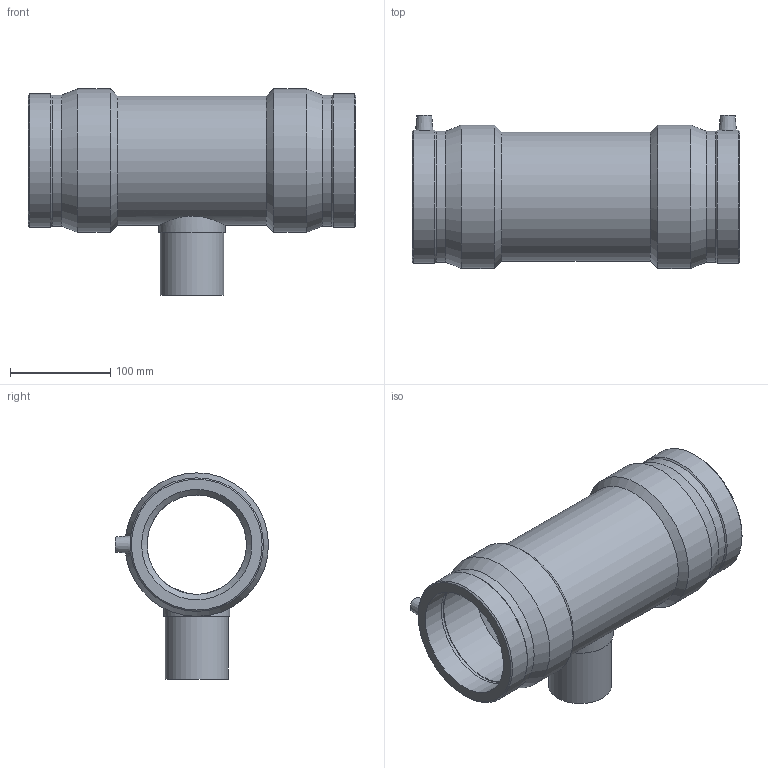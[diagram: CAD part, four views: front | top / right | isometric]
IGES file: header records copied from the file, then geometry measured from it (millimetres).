
Global section: file name: 491404110063.ipt; native system: Autodesk Inventor 2015; preprocessor: unknown; author: KIM; date: 20171106.093850; units: millimetre
Bounding box: 326 x 152.5 x 205.5 mm (x, y, z)
Volume: 1845533.6 mm3; surface area: 283677.3 mm2
Topology: 1 solids, 1 shells, 45 faces, 101 edges, 66 vertices
Faces by surface type: plane 12, revolution 12, cylinder 11, cone 10
Full cylindrical faces by diameter (mm): 4 x2, 63 x1, 66.15 x1, 128.7 x1, 130.33 x2, 132.99 x2, 143 x2
